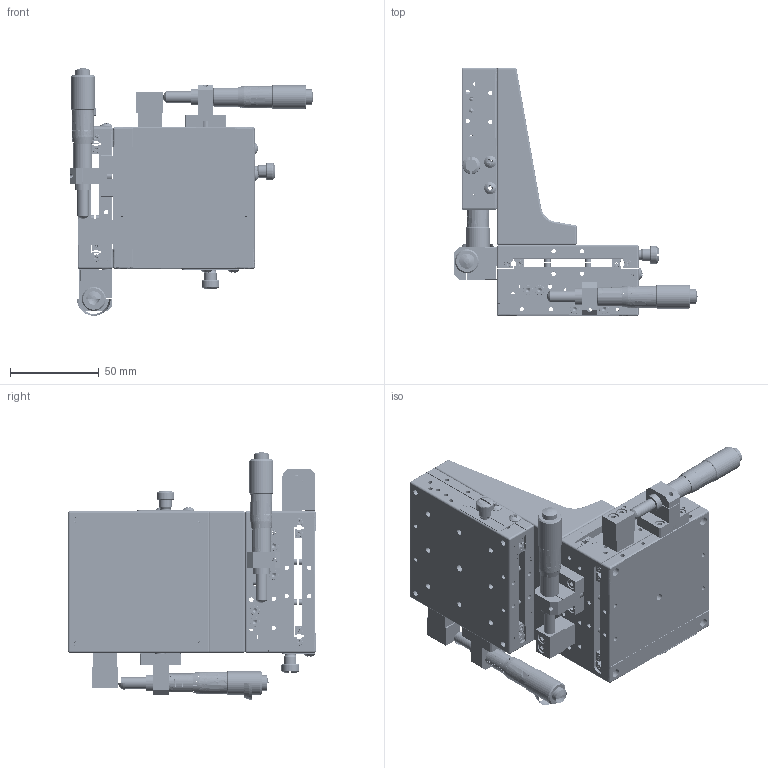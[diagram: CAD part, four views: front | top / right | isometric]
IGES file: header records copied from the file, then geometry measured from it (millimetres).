
Start section: SolidWorks IGES file using analytic representation for surfaces
Bounding box: 137.25 x 140 x 139.75 mm (x, y, z)
Surface area: 142749.2 mm2 (no closed solid volume)
Topology: 0 solids, 0 shells, 1988 faces, 37895 edges, 37785 vertices
Faces by surface type: bspline 1060, revolution 928
